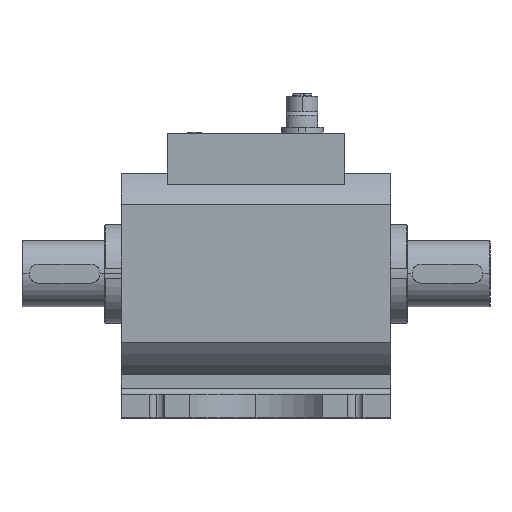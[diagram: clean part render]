
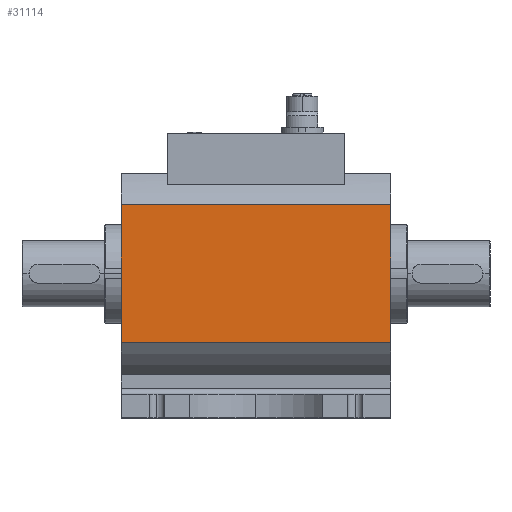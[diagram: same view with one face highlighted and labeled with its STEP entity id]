
A CAD part, top view. The second image highlights one B-rep face of the part: STEP entity #31114.
In plain terms, the highlighted planar face has unit normal (0, 0, 1).
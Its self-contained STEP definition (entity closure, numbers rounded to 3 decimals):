
#273 = DIRECTION ( 'NONE',  ( -1., 0., 0. ) ) ;
#631 = CARTESIAN_POINT ( 'NONE',  ( 57., -29.086, 42.5 ) ) ;
#832 = CARTESIAN_POINT ( 'NONE',  ( -57., 29.086, 42.5 ) ) ;
#1175 = LINE ( 'NONE', #9300, #13463 ) ;
#2740 = LINE ( 'NONE', #32992, #27556 ) ;
#3709 = DIRECTION ( 'NONE',  ( 0., 1., 0. ) ) ;
#3949 = VECTOR ( 'NONE', #4522, 1000. ) ;
#4522 = DIRECTION ( 'NONE',  ( 0., -1., 0. ) ) ;
#4876 = CARTESIAN_POINT ( 'NONE',  ( -57., 29.086, 42.5 ) ) ;
#5046 = EDGE_CURVE ( 'NONE', #18723, #17001, #2740, .T. ) ;
#6766 = DIRECTION ( 'NONE',  ( 0., -1., 0. ) ) ;
#7050 = LINE ( 'NONE', #4876, #3949 ) ;
#7314 = VERTEX_POINT ( 'NONE', #23114 ) ;
#8962 = CARTESIAN_POINT ( 'NONE',  ( 57., 29.086, 42.5 ) ) ;
#9300 = CARTESIAN_POINT ( 'NONE',  ( 57., 29.086, 42.5 ) ) ;
#11296 = VERTEX_POINT ( 'NONE', #14022 ) ;
#11832 = CARTESIAN_POINT ( 'NONE',  ( 57., 29.086, 42.5 ) ) ;
#12314 = AXIS2_PLACEMENT_3D ( 'NONE', #11832, #28003, #3709 ) ;
#13463 = VECTOR ( 'NONE', #6766, 1000. ) ;
#13746 = DIRECTION ( 'NONE',  ( -1., 0., 0. ) ) ;
#14022 = CARTESIAN_POINT ( 'NONE',  ( -57., -29.086, 42.5 ) ) ;
#15842 = ORIENTED_EDGE ( 'NONE', *, *, #31186, .F. ) ;
#16502 = LINE ( 'NONE', #631, #28777 ) ;
#17001 = VERTEX_POINT ( 'NONE', #832 ) ;
#18723 = VERTEX_POINT ( 'NONE', #8962 ) ;
#23114 = CARTESIAN_POINT ( 'NONE',  ( 57., -29.086, 42.5 ) ) ;
#25482 = FACE_OUTER_BOUND ( 'NONE', #28135, .T. ) ;
#25610 = ORIENTED_EDGE ( 'NONE', *, *, #34197, .T. ) ;
#25709 = EDGE_CURVE ( 'NONE', #7314, #11296, #16502, .T. ) ;
#27556 = VECTOR ( 'NONE', #13746, 1000. ) ;
#28003 = DIRECTION ( 'NONE',  ( 0., 0., -1. ) ) ;
#28135 = EDGE_LOOP ( 'NONE', ( #25610, #29858, #15842, #30153 ) ) ;
#28777 = VECTOR ( 'NONE', #273, 1000. ) ;
#29858 = ORIENTED_EDGE ( 'NONE', *, *, #25709, .F. ) ;
#30153 = ORIENTED_EDGE ( 'NONE', *, *, #5046, .T. ) ;
#31114 = ADVANCED_FACE ( 'NONE', ( #25482 ), #33408, .F. ) ;
#31186 = EDGE_CURVE ( 'NONE', #18723, #7314, #1175, .T. ) ;
#32992 = CARTESIAN_POINT ( 'NONE',  ( 57., 29.086, 42.5 ) ) ;
#33408 = PLANE ( 'NONE',  #12314 ) ;
#34197 = EDGE_CURVE ( 'NONE', #17001, #11296, #7050, .T. ) ;
